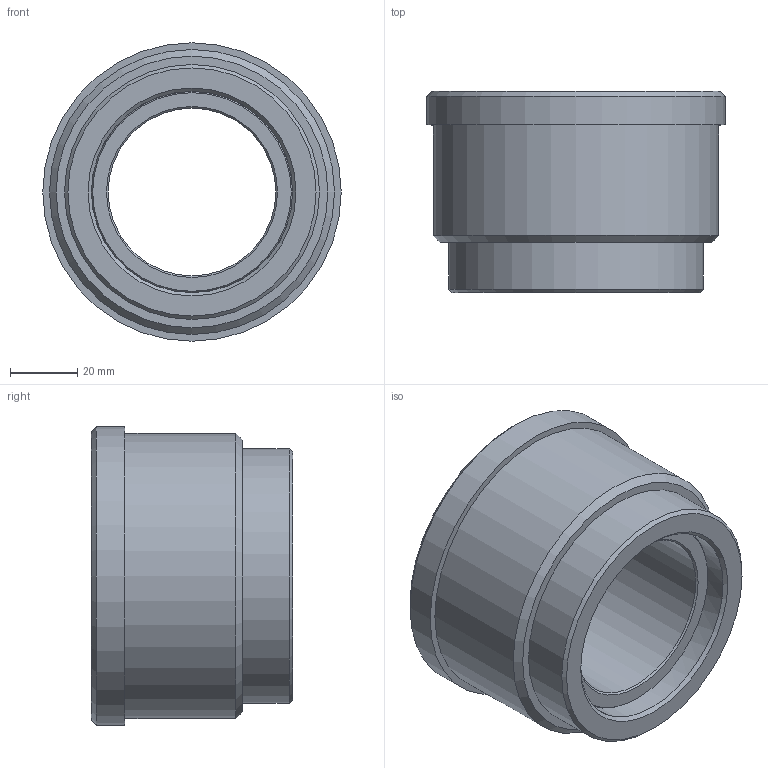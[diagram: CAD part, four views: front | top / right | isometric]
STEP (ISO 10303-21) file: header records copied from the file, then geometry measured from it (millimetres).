
FILE_DESCRIPTION(('STEP AP214'),'1');
FILE_NAME('C:/Projets/Serie 10.xx.xx/10.10.05.step','2011-11-10T15:37:49',(' '),(' '),'Spatial InterOp 3D',' ',' ');
FILE_SCHEMA(('automotive_design'));
Length unit declared in the file: metre
Products named in the file (3): boitier 05; rotule 05; 1
Bounding box: 89 x 60 x 89 mm (x, y, z)
Volume: 185159.2 mm3; surface area: 54000.3 mm2
Topology: 2 solids, 2 shells, 43 faces, 1007 edges, 1807 vertices
Faces by surface type: plane 14, cone 14, cylinder 13, sphere 2
Full cylindrical faces by diameter (mm): 50 x1, 60 x1, 76 x1, 85 x1, 89 x1
Entity records: 12542 total; most frequent: DIRECTION 1194, CARTESIAN_POINT 1165, STYLED_ITEM 958, PRESENTATION_STYLE_ASSIGNMENT 958, COLOUR_RGB 958, TRIMMED_CURVE 915, CURVE_STYLE 915, DRAUGHTING_PRE_DEFINED_CURVE_FONT 915
